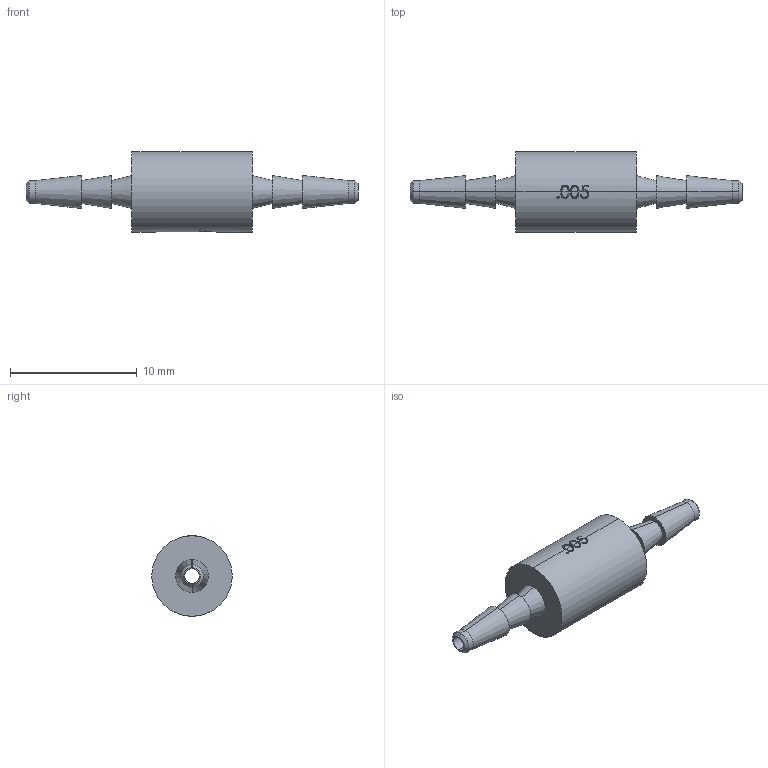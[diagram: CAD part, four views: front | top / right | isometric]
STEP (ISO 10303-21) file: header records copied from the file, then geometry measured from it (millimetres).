
FILE_DESCRIPTION(/* description */ ('SolidWorks IGES file using analytic representation for surfaces '),/* implementation_level */ '2;1');
FILE_NAME(/* name */ 'K:\Normteile INVENTOR\Air-Logic\Orifice restrictors\F-2815-050-B80.IGS.ipt.stp',/* time_stamp */ '2020-05-27T10:45:46+02:00',/* author */ ('cad'),/* organization */ (''),/* preprocessor_version */ 'ST-DEVELOPER v18',/* originating_system */ 'Autodesk Inventor 2020',/* authorisation */ '');
FILE_SCHEMA (('AUTOMOTIVE_DESIGN { 1 0 10303 214 3 1 1 }'));
Length unit declared in the file: millimetre
Products named in the file (1): F-2815-050-B80.IGS
Bounding box: 26.21 x 6.35 x 6.35 mm (x, y, z)
Surface area: 467.1 mm2 (no closed solid volume)
Topology: 0 solids, 87 shells, 87 faces, 433 edges, 433 vertices
Faces by surface type: bspline 34, cylinder 20, plane 17, cone 16
Entity records: 8503 total; most frequent: CARTESIAN_POINT 5260, DIRECTION 486, VERTEX_POINT 433, EDGE_CURVE 433, ORIENTED_EDGE 433, LINE 208, VECTOR 208, B_SPLINE_CURVE_WITH_KNOTS 140
